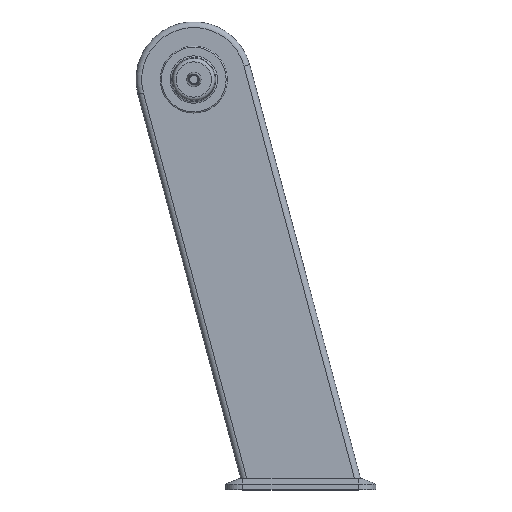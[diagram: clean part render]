
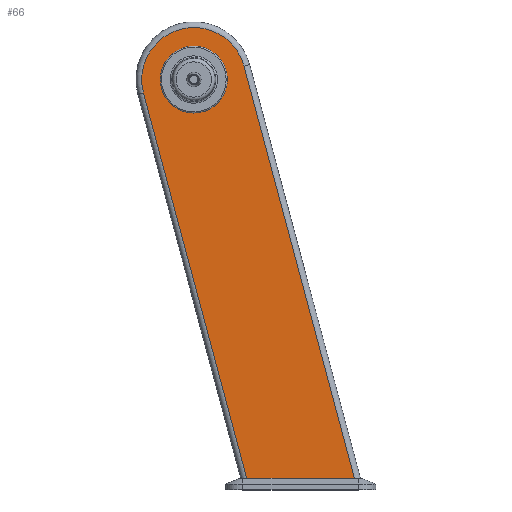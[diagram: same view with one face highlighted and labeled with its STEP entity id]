
A CAD part, top view. The second image highlights one B-rep face of the part: STEP entity #66.
In plain terms, the highlighted planar face has unit normal (0, 0, 1).
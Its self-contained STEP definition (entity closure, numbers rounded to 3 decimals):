
#56 = DIRECTION ( 'NONE',  ( 0.259, -0.966, 0. ) ) ;
#66 = ADVANCED_FACE ( 'NONE', ( #879, #1334 ), #1428, .T. ) ;
#92 = CARTESIAN_POINT ( 'NONE',  ( 58., 0., 31.25 ) ) ;
#130 = AXIS2_PLACEMENT_3D ( 'NONE', #791, #789, #787 ) ;
#192 = CARTESIAN_POINT ( 'NONE',  ( 91.71, -690., 31.25 ) ) ;
#207 = ORIENTED_EDGE ( 'NONE', *, *, #1264, .T. ) ;
#231 = VERTEX_POINT ( 'NONE', #1300 ) ;
#240 = VERTEX_POINT ( 'NONE', #1372 ) ;
#312 = DIRECTION ( 'NONE',  ( 1., 0., 0. ) ) ;
#313 = CARTESIAN_POINT ( 'NONE',  ( 0., -690., 31.25 ) ) ;
#385 = DIRECTION ( 'NONE',  ( 1., 0., 0. ) ) ;
#387 = DIRECTION ( 'NONE',  ( 0., 0., 1. ) ) ;
#388 = CARTESIAN_POINT ( 'NONE',  ( 0., 0., 31.25 ) ) ;
#410 = DIRECTION ( 'NONE',  ( -0.259, 0.966, 0. ) ) ;
#412 = CARTESIAN_POINT ( 'NONE',  ( 86.933, 23.294, 31.25 ) ) ;
#423 = CARTESIAN_POINT ( 'NONE',  ( 96.376, -707.412, 31.25 ) ) ;
#436 = AXIS2_PLACEMENT_3D ( 'NONE', #388, #387, #385 ) ;
#549 = VECTOR ( 'NONE', #410, 1000. ) ;
#598 = VERTEX_POINT ( 'NONE', #954 ) ;
#622 = ORIENTED_EDGE ( 'NONE', *, *, #1424, .T. ) ;
#660 = LINE ( 'NONE', #313, #1401 ) ;
#787 = DIRECTION ( 'NONE',  ( 1., 0., 0. ) ) ;
#789 = DIRECTION ( 'NONE',  ( 0., 0., 1. ) ) ;
#791 = CARTESIAN_POINT ( 'NONE',  ( 0., 0., 31.25 ) ) ;
#818 = AXIS2_PLACEMENT_3D ( 'NONE', #1414, #1358, #1395 ) ;
#879 = FACE_OUTER_BOUND ( 'NONE', #900, .T. ) ;
#900 = EDGE_LOOP ( 'NONE', ( #1493, #1053, #622, #207 ) ) ;
#917 = VECTOR ( 'NONE', #56, 1000. ) ;
#919 = LINE ( 'NONE', #412, #549 ) ;
#946 = CIRCLE ( 'NONE', #436, 58. ) ;
#954 = CARTESIAN_POINT ( 'NONE',  ( 278.06, -690., 31.25 ) ) ;
#1025 = LINE ( 'NONE', #423, #917 ) ;
#1053 = ORIENTED_EDGE ( 'NONE', *, *, #1483, .T. ) ;
#1264 = EDGE_CURVE ( 'NONE', #231, #240, #1510, .T. ) ;
#1300 = CARTESIAN_POINT ( 'NONE',  ( 86.933, 23.294, 31.25 ) ) ;
#1334 = FACE_BOUND ( 'NONE', #1356, .T. ) ;
#1356 = EDGE_LOOP ( 'NONE', ( #1491 ) ) ;
#1358 = DIRECTION ( 'NONE',  ( 0., 0., 1. ) ) ;
#1372 = CARTESIAN_POINT ( 'NONE',  ( -86.933, -23.294, 31.25 ) ) ;
#1395 = DIRECTION ( 'NONE',  ( 1., 0., 0. ) ) ;
#1401 = VECTOR ( 'NONE', #312, 1000. ) ;
#1414 = CARTESIAN_POINT ( 'NONE',  ( 0., 0., 31.25 ) ) ;
#1422 = EDGE_CURVE ( 'NONE', #240, #1683, #1025, .T. ) ;
#1424 = EDGE_CURVE ( 'NONE', #598, #231, #919, .T. ) ;
#1428 = PLANE ( 'NONE',  #818 ) ;
#1430 = EDGE_CURVE ( 'NONE', #1567, #1567, #946, .T. ) ;
#1483 = EDGE_CURVE ( 'NONE', #1683, #598, #660, .T. ) ;
#1491 = ORIENTED_EDGE ( 'NONE', *, *, #1430, .F. ) ;
#1493 = ORIENTED_EDGE ( 'NONE', *, *, #1422, .T. ) ;
#1510 = CIRCLE ( 'NONE', #130, 90. ) ;
#1567 = VERTEX_POINT ( 'NONE', #92 ) ;
#1683 = VERTEX_POINT ( 'NONE', #192 ) ;
